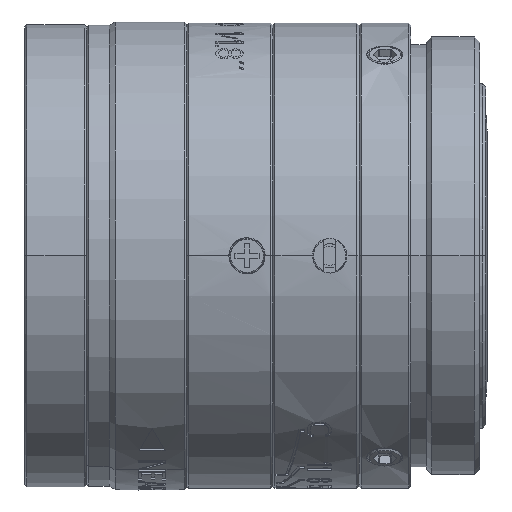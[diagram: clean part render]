
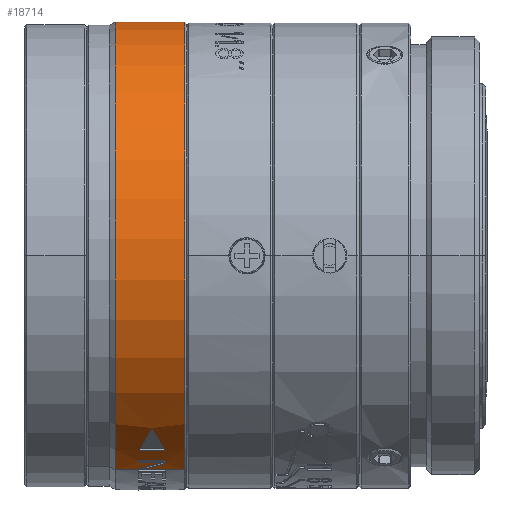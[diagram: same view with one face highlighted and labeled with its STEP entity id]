
A CAD part, front view. The second image highlights one B-rep face of the part: STEP entity #18714.
In plain terms, the highlighted cylindrical face has radius 13.6 mm (diameter 27.2 mm), a partial arc.
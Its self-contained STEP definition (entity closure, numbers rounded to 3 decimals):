
#15668=CARTESIAN_POINT('',(-5.654,0.,0.));
#15669=DIRECTION('',(1.,0.,0.));
#15670=DIRECTION('',(0.,-1.,0.));
#15671=AXIS2_PLACEMENT_3D('',#15668,#15669,#15670);
#15682=CARTESIAN_POINT('',(-4.062,13.6,
-0.012));
#15683=CARTESIAN_POINT('',(-3.911,13.6,
-0.105));
#15684=CARTESIAN_POINT('',(-3.61,13.598,
-0.292));
#15685=CARTESIAN_POINT('',(-3.156,13.589,
-0.572));
#15686=CARTESIAN_POINT('',(-2.852,13.579,
-0.759));
#15687=CARTESIAN_POINT('',(-2.7,13.573,-0.853));
#15689=CARTESIAN_POINT('',(-2.7,0.,0.));
#15690=DIRECTION('',(-1.,0.,0.));
#15691=DIRECTION('',(0.,0.998,-0.063));
#15692=AXIS2_PLACEMENT_3D('',#15689,#15690,#15691);
#15694=DIRECTION('',(-1.,0.,0.));
#15695=VECTOR('',#15694,1.6);
#15696=CARTESIAN_POINT('',(-2.7,13.551,-1.154));
#15697=LINE('',#15696,#15695);
#15698=DIRECTION('',(1.,0.,0.));
#15699=VECTOR('',#15698,1.396);
#15700=CARTESIAN_POINT('',(-4.3,13.567,-0.953));
#15701=LINE('',#15700,#15699);
#15702=CARTESIAN_POINT('',(-2.904,13.567,
-0.953));
#15703=CARTESIAN_POINT('',(-3.06,13.573,
-0.86));
#15704=CARTESIAN_POINT('',(-3.371,13.584,
-0.673));
#15705=CARTESIAN_POINT('',(-3.837,13.595,
-0.393));
#15706=CARTESIAN_POINT('',(-4.146,13.599,
-0.206));
#15707=CARTESIAN_POINT('',(-4.3,13.6,-0.113));
#15709=DIRECTION('',(-1.,0.,0.));
#15710=VECTOR('',#15709,1.354);
#15711=CARTESIAN_POINT('',(-4.3,13.6,0.));
#15712=LINE('',#15711,#15710);
#15713=DIRECTION('',(-1.,0.,0.));
#15714=VECTOR('',#15713,1.08);
#15715=CARTESIAN_POINT('',(-1.62,13.6,0.));
#15716=LINE('',#15715,#15714);
#15717=CARTESIAN_POINT('',(-2.7,0.,0.));
#15718=DIRECTION('',(-1.,0.,0.));
#15719=DIRECTION('',(0.,1.,0.));
#15720=AXIS2_PLACEMENT_3D('',#15717,#15718,#15719);
#15722=DIRECTION('',(-1.,0.,0.));
#15723=VECTOR('',#15722,1.362);
#15724=CARTESIAN_POINT('',(-2.7,13.6,-0.012));
#15725=LINE('',#15724,#15723);
#15726=CARTESIAN_POINT('',(-2.75,13.396,-2.345));
#15727=CARTESIAN_POINT('',(-2.834,13.357,
-2.571));
#15728=CARTESIAN_POINT('',(-3.001,13.266,
-3.022));
#15729=CARTESIAN_POINT('',(-3.251,13.096,
-3.691));
#15730=CARTESIAN_POINT('',(-3.417,12.96,
-4.13));
#15731=CARTESIAN_POINT('',(-3.5,12.886,-4.347));
#15733=CARTESIAN_POINT('',(-3.5,12.886,-4.347));
#15734=CARTESIAN_POINT('',(-3.583,12.96,
-4.13));
#15735=CARTESIAN_POINT('',(-3.749,13.096,
-3.691));
#15736=CARTESIAN_POINT('',(-3.999,13.266,
-3.022));
#15737=CARTESIAN_POINT('',(-4.166,13.357,
-2.571));
#15738=CARTESIAN_POINT('',(-4.25,13.396,-2.345));
#15740=DIRECTION('',(1.,0.,0.));
#15741=VECTOR('',#15740,1.5);
#15742=CARTESIAN_POINT('',(-4.25,13.396,-2.345));
#15743=LINE('',#15742,#15741);
#15771=DIRECTION('',(-1.,0.,0.));
#15772=VECTOR('',#15771,4.034);
#15773=CARTESIAN_POINT('',(-1.62,-13.6,0.));
#15774=LINE('',#15773,#15772);
#16095=CARTESIAN_POINT('',(-1.62,0.,0.));
#16096=DIRECTION('',(-1.,0.,0.));
#16097=DIRECTION('',(0.,1.,0.));
#16098=AXIS2_PLACEMENT_3D('',#16095,#16096,#16097);
#16100=CARTESIAN_POINT('',(-1.62,0.,0.));
#16101=DIRECTION('',(-1.,0.,0.));
#16102=DIRECTION('',(0.,0.,-1.));
#16103=AXIS2_PLACEMENT_3D('',#16100,#16101,#16102);
#16583=CARTESIAN_POINT('',(-4.3,0.,0.));
#16584=DIRECTION('',(-1.,0.,0.));
#16585=DIRECTION('',(0.,1.,0.));
#16586=AXIS2_PLACEMENT_3D('',#16583,#16584,#16585);
#16600=CARTESIAN_POINT('',(-4.3,0.,0.));
#16601=DIRECTION('',(-1.,0.,0.));
#16602=DIRECTION('',(0.,0.998,-0.07));
#16603=AXIS2_PLACEMENT_3D('',#16600,#16601,#16602);
#18055=CARTESIAN_POINT('',(-2.7,13.6,0.));
#18057=VERTEX_POINT('',#18055);
#18058=CARTESIAN_POINT('',(-1.62,13.6,0.));
#18059=VERTEX_POINT('',#18058);
#18062=CARTESIAN_POINT('',(-1.62,-13.6,0.));
#18063=VERTEX_POINT('',#18062);
#18064=CARTESIAN_POINT('',(-5.654,-13.6,0.));
#18065=VERTEX_POINT('',#18064);
#18066=CARTESIAN_POINT('',(-5.654,13.6,0.));
#18067=VERTEX_POINT('',#18066);
#18068=CARTESIAN_POINT('',(-4.3,13.6,0.));
#18069=VERTEX_POINT('',#18068);
#18287=CARTESIAN_POINT('',(-2.7,13.6,-0.012));
#18288=VERTEX_POINT('',#18287);
#18295=VERTEX_POINT('',#15682);
#18296=VERTEX_POINT('',#15687);
#18297=CARTESIAN_POINT('',(-2.7,13.551,-1.154));
#18298=VERTEX_POINT('',#18297);
#18299=CARTESIAN_POINT('',(-4.3,13.551,-1.154));
#18300=VERTEX_POINT('',#18299);
#18301=CARTESIAN_POINT('',(-4.3,13.567,-0.953));
#18302=VERTEX_POINT('',#18301);
#18303=CARTESIAN_POINT('',(-2.904,13.567,
-0.953));
#18304=VERTEX_POINT('',#18303);
#18305=VERTEX_POINT('',#15707);
#18306=CARTESIAN_POINT('',(-1.62,0.,-13.6));
#18307=VERTEX_POINT('',#18306);
#18308=VERTEX_POINT('',#15726);
#18309=VERTEX_POINT('',#15731);
#18310=VERTEX_POINT('',#15738);
#18670=CARTESIAN_POINT('',(-7.665,0.,0.));
#18671=DIRECTION('',(1.,0.,0.));
#18672=DIRECTION('',(0.,-1.,0.));
#18673=AXIS2_PLACEMENT_3D('',#18670,#18671,#18672);
#18674=CYLINDRICAL_SURFACE('',#18673,13.6);
#18676=ORIENTED_EDGE('',*,*,#18675,.T.);
#18678=ORIENTED_EDGE('',*,*,#18677,.T.);
#18680=ORIENTED_EDGE('',*,*,#18679,.T.);
#18682=ORIENTED_EDGE('',*,*,#18681,.F.);
#18684=ORIENTED_EDGE('',*,*,#18683,.T.);
#18686=ORIENTED_EDGE('',*,*,#18685,.T.);
#18688=ORIENTED_EDGE('',*,*,#18687,.F.);
#18690=ORIENTED_EDGE('',*,*,#18689,.T.);
#18691=ORIENTED_EDGE('',*,*,#18660,.F.);
#18693=ORIENTED_EDGE('',*,*,#18692,.F.);
#18695=ORIENTED_EDGE('',*,*,#18694,.F.);
#18697=ORIENTED_EDGE('',*,*,#18696,.F.);
#18699=ORIENTED_EDGE('',*,*,#18698,.T.);
#18701=ORIENTED_EDGE('',*,*,#18700,.T.);
#18703=ORIENTED_EDGE('',*,*,#18702,.T.);
#18704=EDGE_LOOP('',(#18676,#18678,#18680,#18682,#18684,#18686,#18688,#18690,
#18691,#18693,#18695,#18697,#18699,#18701,#18703));
#18705=FACE_OUTER_BOUND('',#18704,.F.);
#18707=ORIENTED_EDGE('',*,*,#18706,.T.);
#18709=ORIENTED_EDGE('',*,*,#18708,.T.);
#18711=ORIENTED_EDGE('',*,*,#18710,.T.);
#18712=EDGE_LOOP('',(#18707,#18709,#18711));
#18713=FACE_BOUND('',#18712,.F.);
#18714=ADVANCED_FACE('',(#18705,#18713),#18674,.T.);
#15672=CIRCLE('',#15671,13.6);
#15688=B_SPLINE_CURVE_WITH_KNOTS('',3,(#15682,#15683,#15684,#15685,#15686,
#15687),.UNSPECIFIED.,.F.,.F.,(4,1,1,4),(0.,0.333,
0.667,1.),.UNSPECIFIED.);
#15693=CIRCLE('',#15692,13.6);
#15708=B_SPLINE_CURVE_WITH_KNOTS('',3,(#15702,#15703,#15704,#15705,#15706,
#15707),.UNSPECIFIED.,.F.,.F.,(4,1,1,4),(0.,0.333,
0.667,1.),.UNSPECIFIED.);
#15721=CIRCLE('',#15720,13.6);
#15732=B_SPLINE_CURVE_WITH_KNOTS('',3,(#15726,#15727,#15728,#15729,#15730,
#15731),.UNSPECIFIED.,.F.,.F.,(4,1,1,4),(0.,0.333,
0.667,1.),.UNSPECIFIED.);
#15739=B_SPLINE_CURVE_WITH_KNOTS('',3,(#15733,#15734,#15735,#15736,#15737,
#15738),.UNSPECIFIED.,.F.,.F.,(4,1,1,4),(0.,0.333,
0.667,1.),.UNSPECIFIED.);
#16099=CIRCLE('',#16098,13.6);
#16104=CIRCLE('',#16103,13.6);
#16587=CIRCLE('',#16586,13.6);
#16604=CIRCLE('',#16603,13.6);
#18660=EDGE_CURVE('',#18065,#18067,#15672,.T.);
#18675=EDGE_CURVE('',#18295,#18296,#15688,.T.);
#18677=EDGE_CURVE('',#18296,#18298,#15693,.T.);
#18679=EDGE_CURVE('',#18298,#18300,#15697,.T.);
#18681=EDGE_CURVE('',#18302,#18300,#16604,.T.);
#18683=EDGE_CURVE('',#18302,#18304,#15701,.T.);
#18685=EDGE_CURVE('',#18304,#18305,#15708,.T.);
#18687=EDGE_CURVE('',#18069,#18305,#16587,.T.);
#18689=EDGE_CURVE('',#18069,#18067,#15712,.T.);
#18692=EDGE_CURVE('',#18063,#18065,#15774,.T.);
#18694=EDGE_CURVE('',#18307,#18063,#16104,.T.);
#18696=EDGE_CURVE('',#18059,#18307,#16099,.T.);
#18698=EDGE_CURVE('',#18059,#18057,#15716,.T.);
#18700=EDGE_CURVE('',#18057,#18288,#15721,.T.);
#18702=EDGE_CURVE('',#18288,#18295,#15725,.T.);
#18706=EDGE_CURVE('',#18308,#18309,#15732,.T.);
#18708=EDGE_CURVE('',#18309,#18310,#15739,.T.);
#18710=EDGE_CURVE('',#18310,#18308,#15743,.T.);
